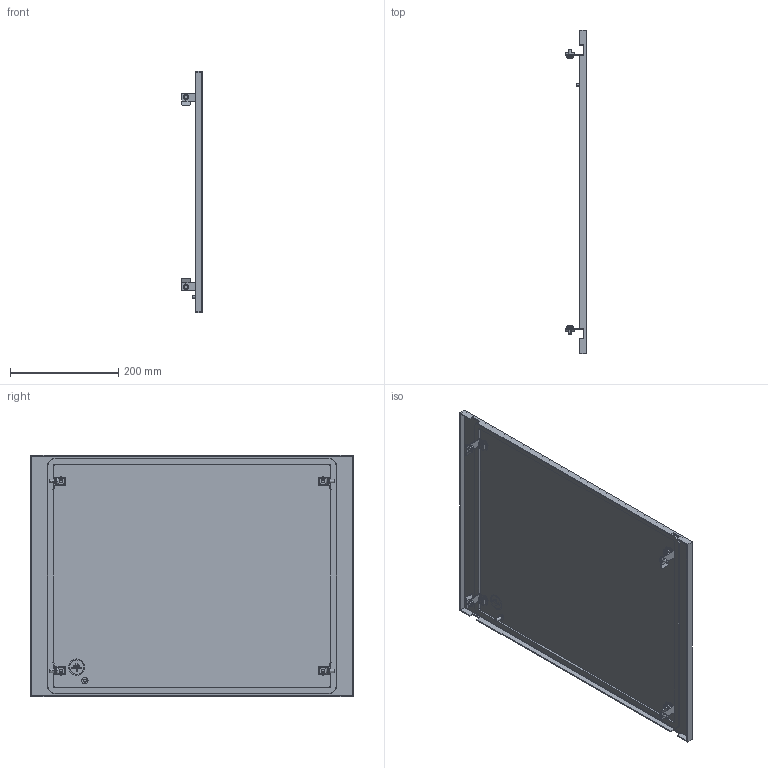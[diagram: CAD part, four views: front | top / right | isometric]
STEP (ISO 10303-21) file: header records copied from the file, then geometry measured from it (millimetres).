
FILE_DESCRIPTION (( 'STEP AP214' ), '1' );
FILE_NAME ('FO-00-PWSB-045-060 Ôàëüø-ïàíåëü âíåøíÿÿ ãëóõàÿ 450õ600 ìì.STEP', '2025-08-25T08:12:48', ( '' ), ( '' ), 'SwSTEP 2.0', 'SolidWorks 2023', '' );
FILE_SCHEMA (( 'AUTOMOTIVE_DESIGN' ));
Length unit declared in the file: millimetre
Products named in the file (1): FO-00-PWSB-045-060 Фальш-панель внешняя глухая 450х600 мм
Bounding box: 38.5 x 595 x 446 mm (x, y, z)
Volume: 651285.3 mm3; surface area: 600990.1 mm2
Topology: 1 solids, 10 shells, 841 faces, 2078 edges, 1277 vertices
Faces by surface type: plane 525, cylinder 202, cone 90, torus 24
Entity records: 25195 total; most frequent: CARTESIAN_POINT 4907, DIRECTION 4336, ORIENTED_EDGE 4152, EDGE_CURVE 2076, AXIS2_PLACEMENT_3D 1482, LINE 1372, VECTOR 1372, VERTEX_POINT 1277
